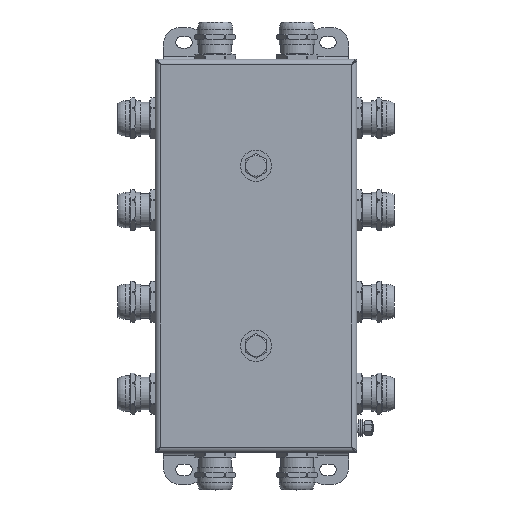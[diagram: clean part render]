
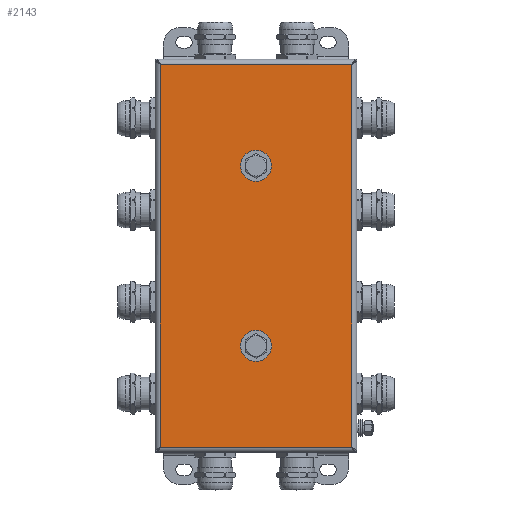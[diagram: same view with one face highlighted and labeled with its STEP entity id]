
A CAD part, top view. The second image highlights one B-rep face of the part: STEP entity #2143.
In plain terms, the highlighted planar face has unit normal (0, 0, 1).
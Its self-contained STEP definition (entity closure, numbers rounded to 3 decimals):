
#2143=ADVANCED_FACE('',(#14654,#14656,#14658),#14660,.T.);
#14654=FACE_BOUND('',#14655,.T.);
#14655=EDGE_LOOP('',(#20380,#20381,#20382,#20383));
#14656=FACE_BOUND('',#14657,.T.);
#14657=EDGE_LOOP('',(#20384));
#14658=FACE_BOUND('',#14659,.T.);
#14659=EDGE_LOOP('',(#20385));
#14660=PLANE('',#14661);
#14661=AXIS2_PLACEMENT_3D('',#14662,#14663,#14664);
#14662=CARTESIAN_POINT('',(0.,0.,61.7));
#14663=DIRECTION('',(0.,-0.,1.));
#14664=DIRECTION('',(0.,1.,0.));
#20380=ORIENTED_EDGE('',*,*,#24929,.T.);
#20381=ORIENTED_EDGE('',*,*,#24930,.T.);
#20382=ORIENTED_EDGE('',*,*,#24931,.T.);
#20383=ORIENTED_EDGE('',*,*,#24932,.T.);
#20384=ORIENTED_EDGE('',*,*,#22942,.T.);
#20385=ORIENTED_EDGE('',*,*,#22940,.T.);
#22940=EDGE_CURVE('',#32347,#32347,#32348,.F.);
#22942=EDGE_CURVE('',#32351,#32351,#32352,.F.);
#24929=EDGE_CURVE('',#33291,#33292,#33293,.T.);
#24930=EDGE_CURVE('',#33292,#33294,#33295,.T.);
#24931=EDGE_CURVE('',#33294,#33296,#33297,.T.);
#24932=EDGE_CURVE('',#33296,#33291,#33298,.T.);
#32347=VERTEX_POINT('',#35246);
#32348=CIRCLE('',#35247,8.5);
#32351=VERTEX_POINT('',#35256);
#32352=CIRCLE('',#35257,8.5);
#33291=VERTEX_POINT('',#37446);
#33292=VERTEX_POINT('',#37447);
#33293=LINE('',#37448,#37449);
#33294=VERTEX_POINT('',#37451);
#33295=LINE('',#37452,#37453);
#33296=VERTEX_POINT('',#37455);
#33297=LINE('',#37456,#37457);
#33298=LINE('',#37459,#37460);
#35246=CARTESIAN_POINT('',(-8.5,55.,61.7));
#35247=AXIS2_PLACEMENT_3D('',#35248,#35249,#35250);
#35248=CARTESIAN_POINT('',(0.,55.,61.7));
#35249=DIRECTION('',(0.,-0.,1.));
#35250=DIRECTION('',(-1.,0.,0.));
#35256=CARTESIAN_POINT('',(-8.5,-55.,61.7));
#35257=AXIS2_PLACEMENT_3D('',#35258,#35259,#35260);
#35258=CARTESIAN_POINT('',(0.,-55.,61.7));
#35259=DIRECTION('',(0.,-0.,1.));
#35260=DIRECTION('',(-1.,0.,0.));
#37446=CARTESIAN_POINT('',(58.3,116.8,61.7));
#37447=CARTESIAN_POINT('',(-58.3,116.8,61.7));
#37448=CARTESIAN_POINT('',(58.3,116.8,61.7));
#37449=VECTOR('',#37450,1.);
#37450=DIRECTION('',(-1.,0.,0.));
#37451=CARTESIAN_POINT('',(-58.3,-116.8,61.7));
#37452=CARTESIAN_POINT('',(-58.3,116.8,61.7));
#37453=VECTOR('',#37454,1.);
#37454=DIRECTION('',(0.,-1.,0.));
#37455=CARTESIAN_POINT('',(58.3,-116.8,61.7));
#37456=CARTESIAN_POINT('',(-58.3,-116.8,61.7));
#37457=VECTOR('',#37458,1.);
#37458=DIRECTION('',(1.,0.,0.));
#37459=CARTESIAN_POINT('',(58.3,-116.8,61.7));
#37460=VECTOR('',#37461,1.);
#37461=DIRECTION('',(0.,1.,0.));
